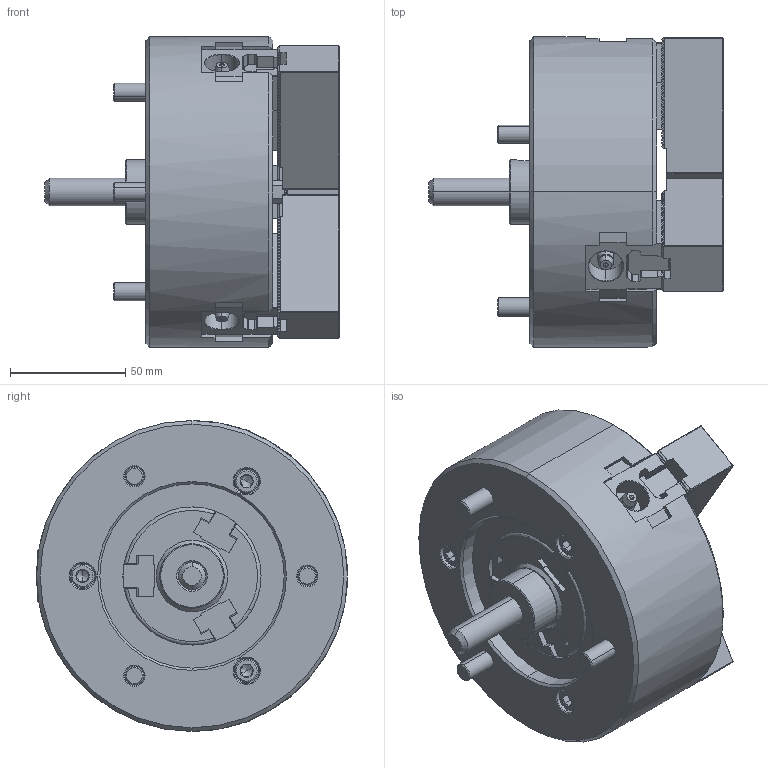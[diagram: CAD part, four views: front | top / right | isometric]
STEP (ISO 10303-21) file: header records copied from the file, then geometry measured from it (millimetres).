
FILE_DESCRIPTION (( 'STEP AP214' ), '1' );
FILE_NAME ('DT1_N-05_OUTSIDE_VIEW_OC.STEP', '2026-03-13T02:05:44', ( '' ), ( '' ), 'SwSTEP 2.0', 'SolidWorks 2022', '' );
FILE_SCHEMA (( 'AUTOMOTIVE_DESIGN' ));
Length unit declared in the file: millimetre
Products named in the file (10): DT1_N-05_M8x60^DT1_N-05; DT1_N-05_DN^DT1_N-05; DT1_N-05_SOFTJAW^DT1_N-05; DT1_N-05_OUTSIDE_VIEW_OC; DT1_N-05_BASE^DT1_N-05; DT1_N-05_DRAWSCREW^DT1_N-05; DT1_N-05_M4x8^DT1_N-05; DT1_N-05_COVER^DT1_N-05; DT1_N-05_TNUT^DT1_N-05; DT1_N-05_M8x22^DT1_N-05
Assembly tree (22 placements, depth 2):
  DT1_N-05_OUTSIDE_VIEW_OC
    DT1_N-05_SOFTJAW^DT1_N-05  x3
    DT1_N-05_TNUT^DT1_N-05  x3
    DT1_N-05_COVER^DT1_N-05
    DT1_N-05_DRAWSCREW^DT1_N-05
    DT1_N-05_DN^DT1_N-05
    DT1_N-05_BASE^DT1_N-05
    DT1_N-05_M8x22^DT1_N-05  x6
    DT1_N-05_M8x60^DT1_N-05  x3
    DT1_N-05_M4x8^DT1_N-05  x3
Bounding box: 128 x 135 x 135 mm (x, y, z)
Volume: 848016.6 mm3; surface area: 142004.9 mm2
Topology: 22 solids, 25 shells, 3541 faces, 9920 edges, 6481 vertices
Faces by surface type: plane 2258, cylinder 832, cone 277, bspline 116, torus 52, sphere 6
Entity records: 87560 total; most frequent: CARTESIAN_POINT 24016, ORIENTED_EDGE 14072, DIRECTION 11758, EDGE_CURVE 7036, VECTOR 5240, LINE 5240, VERTEX_POINT 4608, AXIS2_PLACEMENT_3D 3259
